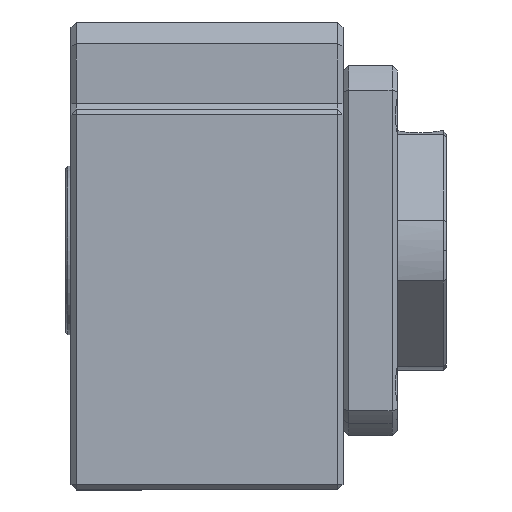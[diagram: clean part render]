
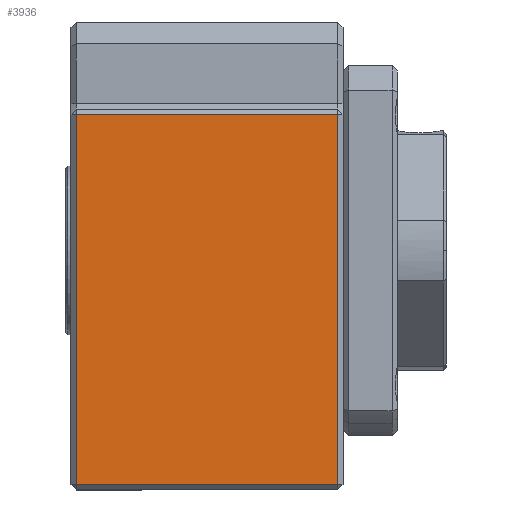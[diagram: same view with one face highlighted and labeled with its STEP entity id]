
A CAD part, front view. The second image highlights one B-rep face of the part: STEP entity #3936.
In plain terms, the highlighted planar face has unit normal (0, -1, 0) as drawn and (-1, 0, 0) by its records, which use the part's own axes.
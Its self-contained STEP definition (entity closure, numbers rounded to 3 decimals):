
#3936 = ADVANCED_FACE ( 'NONE', ( #17418 ), #17417, .T. ) ;
#3937 = EDGE_LOOP ( 'NONE', ( #3938, #3940, #3942, #3943 ) ) ;
#3938 = ORIENTED_EDGE ( 'NONE', *, *, #5279, .T. ) ;
#3940 = ORIENTED_EDGE ( 'NONE', *, *, #3941, .F. ) ;
#3941 = EDGE_CURVE ( 'NONE', #5251, #5280, #17412, .T. ) ;
#3942 = ORIENTED_EDGE ( 'NONE', *, *, #5250, .T. ) ;
#3943 = ORIENTED_EDGE ( 'NONE', *, *, #5269, .T. ) ;
#5250 = EDGE_CURVE ( 'NONE', #5251, #13017, #19676, .T. ) ;
#5251 = VERTEX_POINT ( 'NONE', #19672 ) ;
#5269 = EDGE_CURVE ( 'NONE', #13017, #13037, #19711, .T. ) ;
#5279 = EDGE_CURVE ( 'NONE', #13037, #5280, #19758, .T. ) ;
#5280 = VERTEX_POINT ( 'NONE', #19754 ) ;
#13017 = VERTEX_POINT ( 'NONE', #26468 ) ;
#13037 = VERTEX_POINT ( 'NONE', #26494 ) ;
#17409 = DIRECTION ( 'NONE',  ( 0., 0., -1. ) ) ;
#17410 = VECTOR ( 'NONE', #17409, 1000. ) ;
#17411 = CARTESIAN_POINT ( 'NONE',  ( -30., -12., 0. ) ) ;
#17412 = LINE ( 'NONE', #17411, #17410 ) ;
#17413 = DIRECTION ( 'NONE',  ( 0., 0., 1. ) ) ;
#17414 = DIRECTION ( 'NONE',  ( -1., 0., 0. ) ) ;
#17415 = CARTESIAN_POINT ( 'NONE',  ( -30., -12.5, 0. ) ) ;
#17416 = AXIS2_PLACEMENT_3D ( 'NONE', #17415, #17414, #17413 ) ;
#17417 = PLANE ( 'NONE',  #17416 ) ;
#17418 = FACE_OUTER_BOUND ( 'NONE', #3937, .T. ) ;
#19672 = CARTESIAN_POINT ( 'NONE',  ( -30., -12., 34.5 ) ) ;
#19673 = DIRECTION ( 'NONE',  ( 0., 1., 0. ) ) ;
#19674 = VECTOR ( 'NONE', #19673, 1000. ) ;
#19675 = CARTESIAN_POINT ( 'NONE',  ( -30., -12.5, 34.5 ) ) ;
#19676 = LINE ( 'NONE', #19675, #19674 ) ;
#19708 = DIRECTION ( 'NONE',  ( 0., 0., -1. ) ) ;
#19709 = VECTOR ( 'NONE', #19708, 1000. ) ;
#19710 = CARTESIAN_POINT ( 'NONE',  ( -30., 12., 0. ) ) ;
#19711 = LINE ( 'NONE', #19710, #19709 ) ;
#19754 = CARTESIAN_POINT ( 'NONE',  ( -30., -12., 0.5 ) ) ;
#19755 = DIRECTION ( 'NONE',  ( 0., -1., 0. ) ) ;
#19756 = VECTOR ( 'NONE', #19755, 1000. ) ;
#19757 = CARTESIAN_POINT ( 'NONE',  ( -30., -12.5, 0.5 ) ) ;
#19758 = LINE ( 'NONE', #19757, #19756 ) ;
#26468 = CARTESIAN_POINT ( 'NONE',  ( -30., 12., 34.5 ) ) ;
#26494 = CARTESIAN_POINT ( 'NONE',  ( -30., 12., 0.5 ) ) ;
